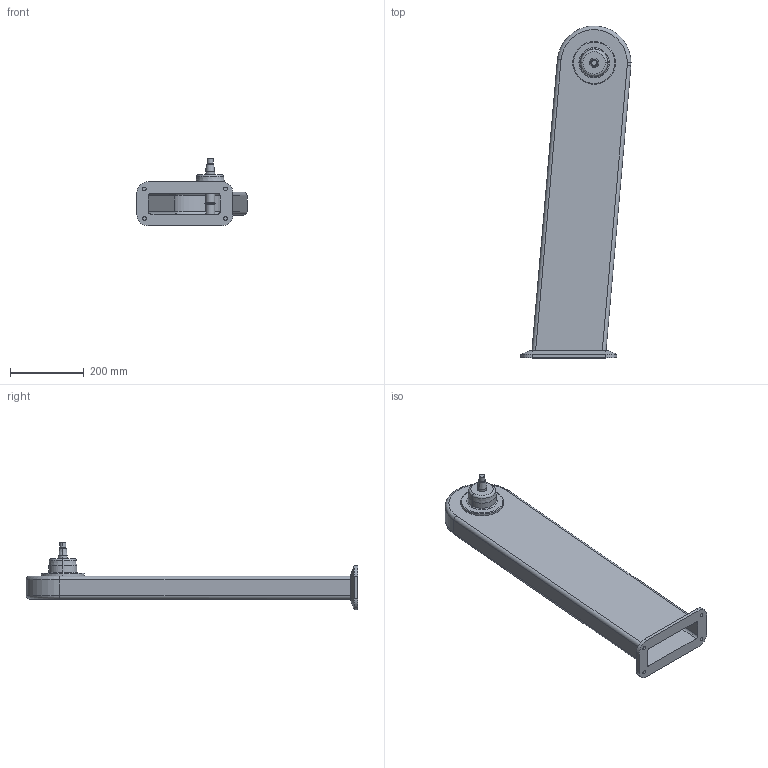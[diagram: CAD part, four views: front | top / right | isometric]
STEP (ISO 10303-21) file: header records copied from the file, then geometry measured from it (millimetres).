
FILE_DESCRIPTION (( 'STEP AP214' ), '1' );
FILE_NAME ('WP800_H800_+05.STEP', '2014-06-26T12:48:23', ( '' ), ( '' ), 'SwSTEP 2.0', 'SolidWorks 2014', '' );
FILE_SCHEMA (( 'AUTOMOTIVE_DESIGN' ));
Length unit declared in the file: millimetre
Products named in the file (1): WP800_H800_+05
Bounding box: 298.24 x 899.9 x 183.29 mm (x, y, z)
Volume: 1915868.3 mm3; surface area: 947778.8 mm2
Topology: 1 solids, 1 shells, 92 faces, 202 edges, 122 vertices
Faces by surface type: cylinder 36, plane 26, cone 16, torus 14
Entity records: 2564 total; most frequent: DIRECTION 484, CARTESIAN_POINT 441, ORIENTED_EDGE 404, EDGE_CURVE 202, AXIS2_PLACEMENT_3D 197, VERTEX_POINT 122, CIRCLE 104, EDGE_LOOP 104
